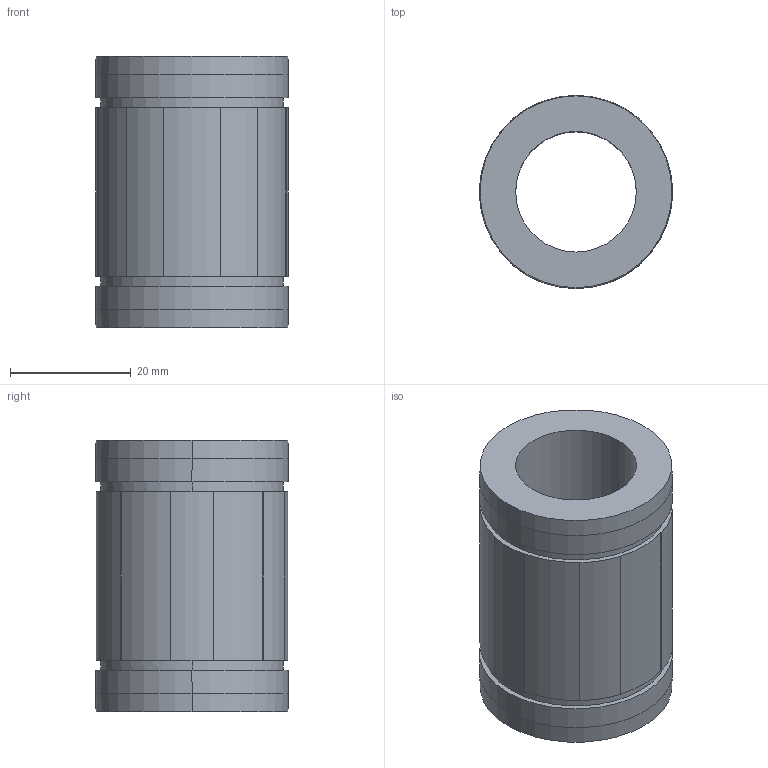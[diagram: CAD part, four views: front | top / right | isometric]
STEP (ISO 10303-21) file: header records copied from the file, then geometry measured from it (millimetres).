
FILE_DESCRIPTION((''),'2;1');
FILE_NAME('C:\Documents and Settings\ｿﾀﾀ蠑ｷ1\ｹﾙﾅﾁ ﾈｭｸ饅\ｺﾎﾇｰﾆﾄﾀﾏ\ﾁｦﾇｰ\LMES__UU\LMES20UU.stp','2005-06-15T14:05:01',('ｿﾀﾀ蠑ｷ1'),(''),'Autodesk Inventor 9','Autodesk Inventor 9','');
FILE_SCHEMA(('AUTOMOTIVE_DESIGN { 1 0 10303 214 1 1 1 1 }'));
Length unit declared in the file: millimetre
Products named in the file (1): LMES__
Bounding box: 32 x 32 x 45 mm (x, y, z)
Volume: 21587.3 mm3; surface area: 8630.2 mm2
Topology: 1 solids, 1 shells, 44 faces, 112 edges, 74 vertices
Faces by surface type: cylinder 22, plane 18, cone 4
Entity records: 1377 total; most frequent: DIRECTION 252, CARTESIAN_POINT 231, ORIENTED_EDGE 224, EDGE_CURVE 112, AXIS2_PLACEMENT_3D 95, VERTEX_POINT 74, VECTOR 62, LINE 62
